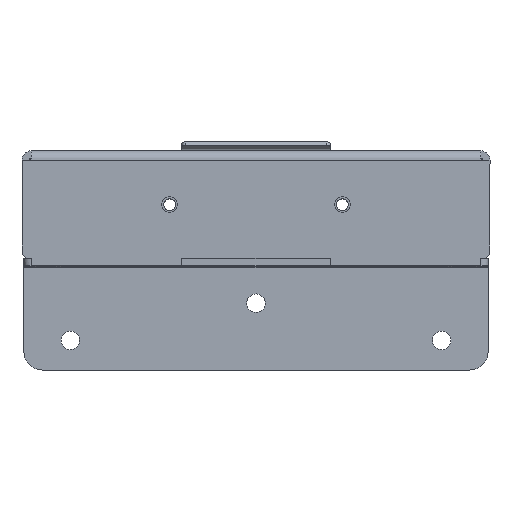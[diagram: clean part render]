
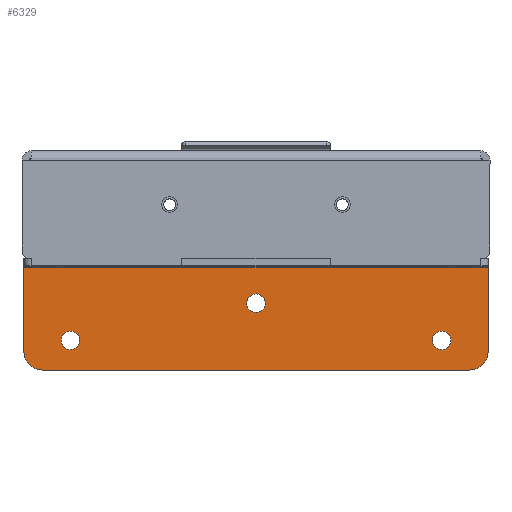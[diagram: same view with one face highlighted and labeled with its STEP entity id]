
A CAD part, top view. The second image highlights one B-rep face of the part: STEP entity #6329.
In plain terms, the highlighted planar face has unit normal (0, 0, 1).
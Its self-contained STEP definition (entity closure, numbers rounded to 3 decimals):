
#60=FACE_BOUND('',#845,.T.);
#61=FACE_BOUND('',#846,.T.);
#62=FACE_BOUND('',#847,.T.);
#191=PLANE('',#6860);
#481=FACE_OUTER_BOUND('',#844,.T.);
#844=EDGE_LOOP('',(#5102,#5103,#5104,#5105,#5106,#5107));
#845=EDGE_LOOP('',(#5108,#5109));
#846=EDGE_LOOP('',(#5110,#5111));
#847=EDGE_LOOP('',(#5112,#5113));
#1399=LINE('',#10153,#2035);
#1405=LINE('',#10169,#2041);
#1406=LINE('',#10173,#2042);
#1408=LINE('',#10179,#2044);
#2035=VECTOR('',#8174,10.);
#2041=VECTOR('',#8190,10.);
#2042=VECTOR('',#8195,10.);
#2044=VECTOR('',#8205,10.);
#2436=CIRCLE('',#6824,2.5);
#2437=CIRCLE('',#6825,2.5);
#2440=CIRCLE('',#6829,2.5);
#2441=CIRCLE('',#6830,2.5);
#2444=CIRCLE('',#6834,2.5);
#2445=CIRCLE('',#6835,2.5);
#2449=CIRCLE('',#6844,5.);
#2451=CIRCLE('',#6849,5.);
#2923=VERTEX_POINT('',#10100);
#2924=VERTEX_POINT('',#10102);
#2927=VERTEX_POINT('',#10110);
#2928=VERTEX_POINT('',#10112);
#2931=VERTEX_POINT('',#10120);
#2932=VERTEX_POINT('',#10122);
#2937=VERTEX_POINT('',#10143);
#2938=VERTEX_POINT('',#10145);
#2940=VERTEX_POINT('',#10151);
#2944=VERTEX_POINT('',#10163);
#2945=VERTEX_POINT('',#10167);
#2946=VERTEX_POINT('',#10171);
#3677=EDGE_CURVE('',#2924,#2923,#2436,.T.);
#3678=EDGE_CURVE('',#2923,#2924,#2437,.T.);
#3682=EDGE_CURVE('',#2928,#2927,#2440,.T.);
#3683=EDGE_CURVE('',#2927,#2928,#2441,.T.);
#3687=EDGE_CURVE('',#2932,#2931,#2444,.T.);
#3688=EDGE_CURVE('',#2931,#2932,#2445,.T.);
#3699=EDGE_CURVE('',#2937,#2938,#2449,.T.);
#3703=EDGE_CURVE('',#2940,#2937,#1399,.T.);
#3709=EDGE_CURVE('',#2944,#2940,#2451,.T.);
#3711=EDGE_CURVE('',#2944,#2945,#1405,.T.);
#3713=EDGE_CURVE('',#2946,#2945,#1406,.T.);
#3717=EDGE_CURVE('',#2938,#2946,#1408,.T.);
#5102=ORIENTED_EDGE('',*,*,#3699,.F.);
#5103=ORIENTED_EDGE('',*,*,#3703,.F.);
#5104=ORIENTED_EDGE('',*,*,#3709,.F.);
#5105=ORIENTED_EDGE('',*,*,#3711,.T.);
#5106=ORIENTED_EDGE('',*,*,#3713,.F.);
#5107=ORIENTED_EDGE('',*,*,#3717,.F.);
#5108=ORIENTED_EDGE('',*,*,#3677,.T.);
#5109=ORIENTED_EDGE('',*,*,#3678,.T.);
#5110=ORIENTED_EDGE('',*,*,#3682,.T.);
#5111=ORIENTED_EDGE('',*,*,#3683,.T.);
#5112=ORIENTED_EDGE('',*,*,#3687,.T.);
#5113=ORIENTED_EDGE('',*,*,#3688,.T.);
#6329=ADVANCED_FACE('',(#481,#60,#61,#62),#191,.F.);
#6824=AXIS2_PLACEMENT_3D('',#10103,#8118,#8119);
#6825=AXIS2_PLACEMENT_3D('',#10104,#8120,#8121);
#6829=AXIS2_PLACEMENT_3D('',#10113,#8129,#8130);
#6830=AXIS2_PLACEMENT_3D('',#10114,#8131,#8132);
#6834=AXIS2_PLACEMENT_3D('',#10123,#8140,#8141);
#6835=AXIS2_PLACEMENT_3D('',#10124,#8142,#8143);
#6844=AXIS2_PLACEMENT_3D('',#10146,#8167,#8168);
#6849=AXIS2_PLACEMENT_3D('',#10165,#8185,#8186);
#6860=AXIS2_PLACEMENT_3D('',#10185,#8214,#8215);
#8118=DIRECTION('center_axis',(0.,0.,
-1.));
#8119=DIRECTION('ref_axis',(0.,-1.,0.));
#8120=DIRECTION('center_axis',(0.,0.,
-1.));
#8121=DIRECTION('ref_axis',(0.,-1.,0.));
#8129=DIRECTION('center_axis',(0.,0.,
-1.));
#8130=DIRECTION('ref_axis',(0.,-1.,0.));
#8131=DIRECTION('center_axis',(0.,0.,
-1.));
#8132=DIRECTION('ref_axis',(0.,-1.,0.));
#8140=DIRECTION('center_axis',(0.,0.,
-1.));
#8141=DIRECTION('ref_axis',(0.,-1.,0.));
#8142=DIRECTION('center_axis',(0.,0.,
-1.));
#8143=DIRECTION('ref_axis',(0.,-1.,0.));
#8167=DIRECTION('center_axis',(0.,0.,
-1.));
#8168=DIRECTION('ref_axis',(-0.707,-0.707,0.));
#8174=DIRECTION('',(-1.,0.,0.));
#8185=DIRECTION('center_axis',(0.,0.,
-1.));
#8186=DIRECTION('ref_axis',(0.707,-0.707,0.));
#8190=DIRECTION('',(0.,1.,0.));
#8195=DIRECTION('',(1.,0.,0.));
#8205=DIRECTION('',(0.,1.,0.));
#8214=DIRECTION('center_axis',(0.,0.,
-1.));
#8215=DIRECTION('ref_axis',(0.,-1.,0.));
#10100=CARTESIAN_POINT('',(-32.384,-13.302,94.664));
#10102=CARTESIAN_POINT('',(-32.384,-18.302,94.664));
#10103=CARTESIAN_POINT('Origin',(-32.384,-15.802,94.664));
#10104=CARTESIAN_POINT('Origin',(-32.384,-15.802,94.664));
#10110=CARTESIAN_POINT('',(-82.384,-23.302,94.664));
#10112=CARTESIAN_POINT('',(-82.384,-28.302,94.664));
#10113=CARTESIAN_POINT('Origin',(-82.384,-25.802,94.664));
#10114=CARTESIAN_POINT('Origin',(-82.384,-25.802,94.664));
#10120=CARTESIAN_POINT('',(17.616,-23.302,94.664));
#10122=CARTESIAN_POINT('',(17.616,-28.302,94.664));
#10123=CARTESIAN_POINT('Origin',(17.616,-25.802,94.664));
#10124=CARTESIAN_POINT('Origin',(17.616,-25.802,94.664));
#10143=CARTESIAN_POINT('',(-89.884,-33.802,94.664));
#10145=CARTESIAN_POINT('',(-94.884,-28.802,94.664));
#10146=CARTESIAN_POINT('Origin',(-89.884,-28.802,94.664));
#10151=CARTESIAN_POINT('',(25.116,-33.802,94.664));
#10153=CARTESIAN_POINT('',(30.116,-33.802,94.664));
#10163=CARTESIAN_POINT('',(30.116,-28.802,94.664));
#10165=CARTESIAN_POINT('Origin',(25.116,-28.802,94.664));
#10167=CARTESIAN_POINT('',(30.116,-6.302,94.664));
#10169=CARTESIAN_POINT('',(30.116,-33.802,94.664));
#10171=CARTESIAN_POINT('',(-94.884,-6.302,94.664));
#10173=CARTESIAN_POINT('',(-32.384,-6.302,94.664));
#10179=CARTESIAN_POINT('',(-94.884,-33.802,94.664));
#10185=CARTESIAN_POINT('Origin',(-32.384,-11.109,94.664));
